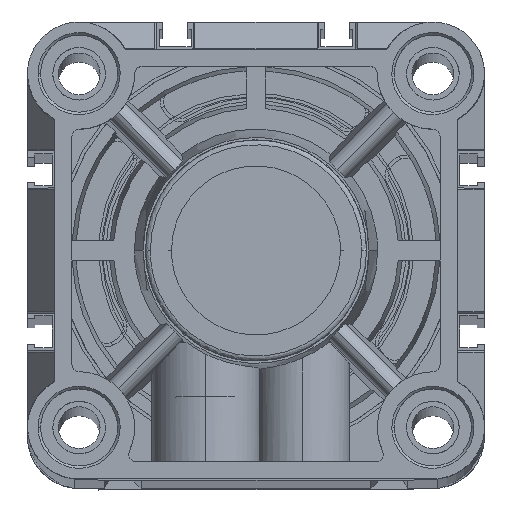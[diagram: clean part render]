
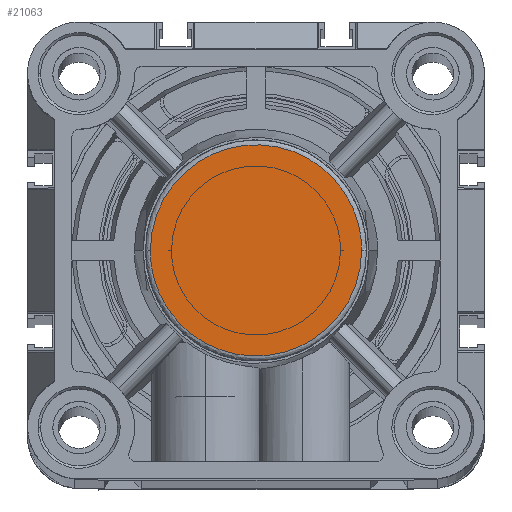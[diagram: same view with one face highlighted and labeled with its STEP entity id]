
A CAD part, top view. The second image highlights one B-rep face of the part: STEP entity #21063.
In plain terms, the highlighted planar face has unit normal (0, 0, 1).
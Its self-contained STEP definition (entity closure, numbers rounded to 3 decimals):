
#1457 = CARTESIAN_POINT ( 'NONE',  ( 62.5, -2., 40. ) ) ;
#1775 = VERTEX_POINT ( 'NONE', #42971 ) ;
#2564 = ORIENTED_EDGE ( 'NONE', *, *, #13662, .F. ) ;
#2693 = EDGE_LOOP ( 'NONE', ( #39913, #2564 ) ) ;
#8784 = CARTESIAN_POINT ( 'NONE',  ( 62.5, 84., 40. ) ) ;
#13089 = CARTESIAN_POINT ( 'NONE',  ( 62.5, 41., 40. ) ) ;
#13662 = EDGE_CURVE ( 'NONE', #30157, #1775, #31478, .T. ) ;
#17740 = AXIS2_PLACEMENT_3D ( 'NONE', #18593, #43704, #22198 ) ;
#18593 = CARTESIAN_POINT ( 'NONE',  ( 19.242, 19.242, 40. ) ) ;
#19281 = CARTESIAN_POINT ( 'NONE',  ( 19.5, 84., 40. ) ) ;
#20201 = CARTESIAN_POINT ( 'NONE',  ( 19.5, 41., 40. ) ) ;
#21063 = ADVANCED_FACE ( 'NONE', ( #24401 ), #36210, .T. ) ;
#22198 = DIRECTION ( 'NONE',  ( 1., 0., 0. ) ) ;
#23469 = CARTESIAN_POINT ( 'NONE',  ( 62.5, 41., 40. ) ) ;
#24401 = FACE_OUTER_BOUND ( 'NONE', #2693, .T. ) ;
#30157 = VERTEX_POINT ( 'NONE', #23469 ) ;
#31478 =( BOUNDED_CURVE ( )  B_SPLINE_CURVE ( 3, ( #13089, #1457, #41720, #20201 ),
 .UNSPECIFIED., .F., .F. ) 
 B_SPLINE_CURVE_WITH_KNOTS ( ( 4, 4 ),
 ( 0., 1. ),
 .UNSPECIFIED. ) 
 CURVE ( )  GEOMETRIC_REPRESENTATION_ITEM ( )  RATIONAL_B_SPLINE_CURVE ( ( 0.957, 0.319, 0.319, 0.957 ) ) 
 REPRESENTATION_ITEM ( '' )  );
#33780 = CARTESIAN_POINT ( 'NONE',  ( 62.5, 41., 40. ) ) ;
#36210 = PLANE ( 'NONE',  #17740 ) ;
#36261 =( BOUNDED_CURVE ( )  B_SPLINE_CURVE ( 3, ( #44410, #19281, #8784, #33780 ),
 .UNSPECIFIED., .F., .F. ) 
 B_SPLINE_CURVE_WITH_KNOTS ( ( 4, 4 ),
 ( 0., 1. ),
 .UNSPECIFIED. ) 
 CURVE ( )  GEOMETRIC_REPRESENTATION_ITEM ( )  RATIONAL_B_SPLINE_CURVE ( ( 0.957, 0.319, 0.319, 0.957 ) ) 
 REPRESENTATION_ITEM ( '' )  );
#39913 = ORIENTED_EDGE ( 'NONE', *, *, #42392, .F. ) ;
#41720 = CARTESIAN_POINT ( 'NONE',  ( 19.5, -2., 40. ) ) ;
#42392 = EDGE_CURVE ( 'NONE', #1775, #30157, #36261, .T. ) ;
#42971 = CARTESIAN_POINT ( 'NONE',  ( 19.5, 41., 40. ) ) ;
#43704 = DIRECTION ( 'NONE',  ( 0., 0., 1. ) ) ;
#44410 = CARTESIAN_POINT ( 'NONE',  ( 19.5, 41., 40. ) ) ;
